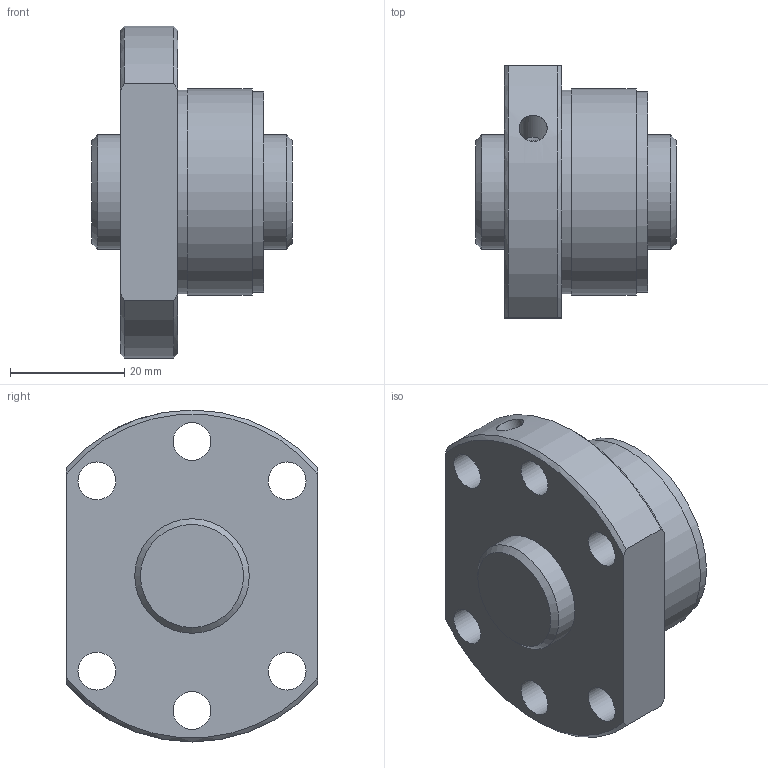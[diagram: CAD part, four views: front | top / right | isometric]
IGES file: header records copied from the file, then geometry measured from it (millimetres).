
Start section: Data from Parasolid IGES Translator 26.0.171, Copyright(c) 2006 Siemens PLM Software. All Rights Reserved.
Global section: file name: SDA2005V-3G0+35LC0(0G000).igs; native system: By Siemens PLM Incorporated; preprocessor: XPlus GENERIC/IGES 26.0.171; author: Noname; organization: Noname; date: 20240528.112949; units: millimetre
Bounding box: 35 x 44 x 58 mm (x, y, z)
Surface area: 12728.7 mm2 (no closed solid volume)
Topology: 0 solids, 0 shells, 31 faces, 142 edges, 122 vertices
Faces by surface type: revolution 22, extrusion 9
